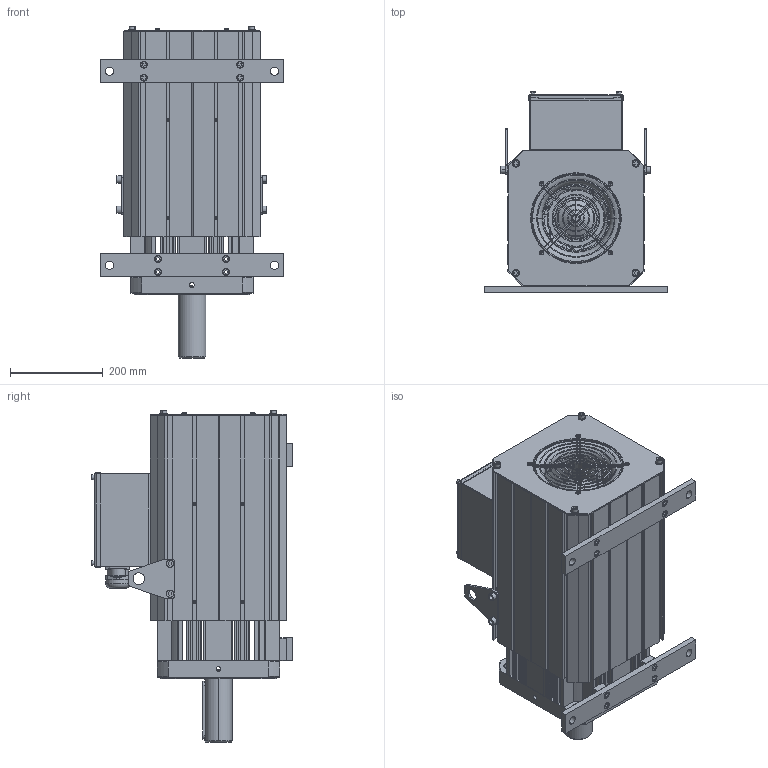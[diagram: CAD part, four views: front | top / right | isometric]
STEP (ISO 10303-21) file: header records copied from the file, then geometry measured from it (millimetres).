
FILE_DESCRIPTION (( 'STEP AP214' ), '1' );
FILE_NAME ('300YSµç»ú(JET).STEP', '2021-04-30T05:11:51', ( '' ), ( '' ), 'SwSTEP 2.0', 'SolidWorks 2018', '' );
FILE_SCHEMA (( 'AUTOMOTIVE_DESIGN' ));
Length unit declared in the file: millimetre
Products named in the file (1): 300YS萇儂(JET)
Bounding box: 396 x 434.1 x 716.58 mm (x, y, z)
Surface area: 2760487.5 mm2 (no closed solid volume)
Topology: 0 solids, 221 shells, 1573 faces, 5549 edges, 4062 vertices
Faces by surface type: plane 967, cylinder 379, cone 101, torus 95, sphere 22, bspline 9
Entity records: 79290 total; most frequent: CARTESIAN_POINT 14088, DIRECTION 10308, ORIENTED_EDGE 8492, EDGE_CURVE 5535, VERTEX_POINT 4056, VECTOR 3640, LINE 3640, AXIS2_PLACEMENT_3D 3334
